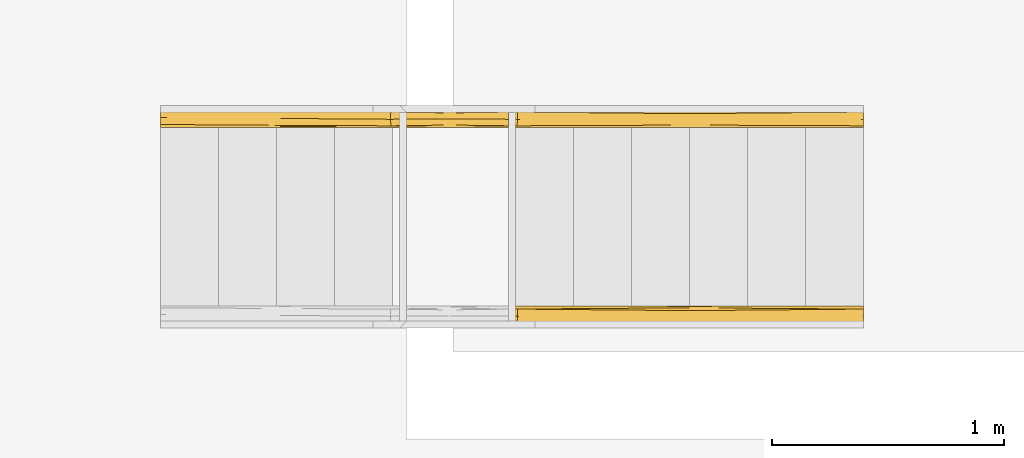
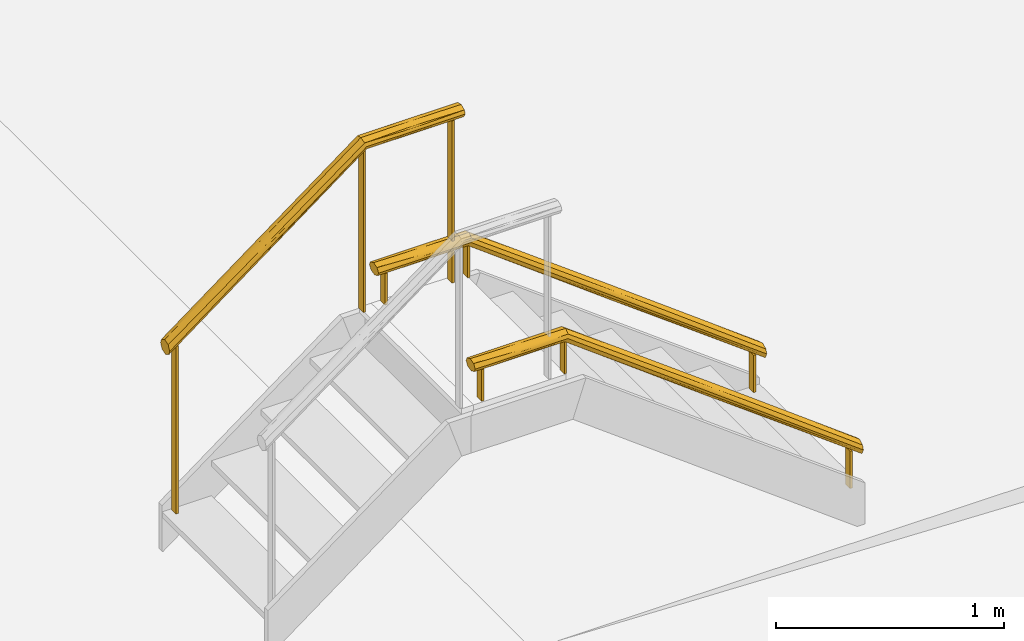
# One storey, part 7 of 15: 3 railings, 2 elements without a shape of their own.
"""IFC2X3 building model written with IfcOpenShell, lengths in centimetres."""

from ifc_helpers import new_model, entity, si_unit, converted_unit, derived_unit, direction, frame, origin, place, context, subcontext, project, spatial, faceted_brep, material, material_list, element, aggregate, save


model = new_model("IFC2X3")

# Units and contexts
model_context = context("Model", 3, precision=0.001, world=origin(), true_north=direction((6.12303176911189e-17, 1.0)))
body_context = subcontext(model_context, "Body", "Model", "MODEL_VIEW")
ifc_project = project(units=[si_unit("LENGTHUNIT", "METRE", prefix="CENTI"), si_unit("AREAUNIT", "SQUARE_METRE"), si_unit("VOLUMEUNIT", "CUBIC_METRE"), converted_unit("PLANEANGLEUNIT", "DEGREE", entity("IfcRatioMeasure", 0.0174532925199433), si_unit("PLANEANGLEUNIT", "RADIAN"), dimensions=[0, 0, 0, 0, 0, 0, 0]), si_unit("MASSUNIT", "GRAM", prefix="KILO"), si_unit("TIMEUNIT", "SECOND"), si_unit("FREQUENCYUNIT", "HERTZ"), si_unit("THERMODYNAMICTEMPERATUREUNIT", "DEGREE_CELSIUS"), derived_unit("THERMALTRANSMITTANCEUNIT", [(si_unit("MASSUNIT", "GRAM", prefix="KILO"), 1), (si_unit("THERMODYNAMICTEMPERATUREUNIT", "KELVIN"), -1), (si_unit("TIMEUNIT", "SECOND"), -3)]), derived_unit("VOLUMETRICFLOWRATEUNIT", [(si_unit("LENGTHUNIT", "METRE"), 3), (si_unit("TIMEUNIT", "SECOND"), -1)]), si_unit("ELECTRICCURRENTUNIT", "AMPERE"), si_unit("ELECTRICVOLTAGEUNIT", "VOLT"), si_unit("POWERUNIT", "WATT"), si_unit("FORCEUNIT", "NEWTON", prefix="KILO"), si_unit("ILLUMINANCEUNIT", "LUX"), si_unit("LUMINOUSFLUXUNIT", "LUMEN"), si_unit("LUMINOUSINTENSITYUNIT", "CANDELA"), derived_unit("USERDEFINED", [(si_unit("MASSUNIT", "GRAM", prefix="KILO"), -1), (si_unit("LENGTHUNIT", "METRE"), -2), (si_unit("TIMEUNIT", "SECOND"), 3), (si_unit("LUMINOUSFLUXUNIT", "LUMEN"), 1)]), derived_unit("LINEARVELOCITYUNIT", [(si_unit("LENGTHUNIT", "METRE"), 1), (si_unit("TIMEUNIT", "SECOND"), -1)]), si_unit("PRESSUREUNIT", "PASCAL"), derived_unit("USERDEFINED", [(si_unit("LENGTHUNIT", "METRE"), -2), (si_unit("MASSUNIT", "GRAM", prefix="KILO"), 1), (si_unit("TIMEUNIT", "SECOND"), -2)])], contexts=[model_context])

# Site, building, storey
site_placement = place(None, frame((8.62739174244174, -249.285249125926, 0.0)))
site = spatial("IfcSite", under=ifc_project, at=site_placement, Name="Default", CompositionType="ELEMENT")
building_placement = place(site_placement, origin())
building = spatial("IfcBuilding", under=site, at=building_placement, CompositionType="ELEMENT")
storey_placement = place(building_placement, frame((0.0, 0.0, 801.0)))
storey = spatial("IfcBuildingStorey", under=building, at=storey_placement, Name="Acrotère E3", CompositionType="ELEMENT", Elevation=801.0)

# Stair, railing
stair_1_placement = place(building_placement, frame((0.0, 0.0, 801.0)))
stair_1 = element("IfcStair", 1, at=stair_1_placement, inside=storey, Name="Escalier assemblé:Escalier", ShapeType="NOTDEFINED")
ifc_material_1 = material(Name="Peinture - Grise")
ifc_material_2 = material(Name="Pin (1)")
ifc_material_list_1 = material_list([ifc_material_1, ifc_material_2])
railing_1_placement = place(stair_1_placement, frame((3033.90482782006, 2666.36068084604, -58.2857142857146)))
railing_1 = element("IfcRailing", 2, at=railing_1_placement, material=ifc_material_list_1, Name="Garde-corps:Type Bateau 3", ObjectType="Garde-corps:Type Bateau 3", PredefinedType="NOTDEFINED", context=body_context, shape_type="Brep", body=[
    faceted_brep([(46.3999999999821, 6.15952722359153, 129.270367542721), (46.3999999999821, 2.15952722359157, 129.270367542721), (47.5999999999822, 2.15952722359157, 129.270367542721), (47.5999999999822, 6.15952722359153, 129.270367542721), (46.3999999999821, 6.15952722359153, 112.285714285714), (47.5999999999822, 6.15952722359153, 112.285714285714), (47.5999999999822, 2.15952722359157, 112.285714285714), (46.3999999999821, 2.15952722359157, 112.285714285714)], [[[0, 1, 2, 3]], [[4, 5, 6, 7]], [[3, 5, 4, 0]], [[2, 6, 5, 3]], [[1, 7, 6, 2]], [[0, 4, 7, 1]]]),
    faceted_brep([(4.4000000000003, 6.15952722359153, 129.270367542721), (4.4000000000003, 2.15952722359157, 129.270367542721), (5.60000000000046, 2.15952722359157, 129.270367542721), (5.60000000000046, 6.15952722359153, 129.270367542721), (4.4000000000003, 6.15952722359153, 112.285714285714), (5.60000000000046, 6.15952722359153, 112.285714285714), (5.60000000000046, 2.15952722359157, 112.285714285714), (4.4000000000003, 2.15952722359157, 112.285714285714)], [[[0, 1, 2, 3]], [[4, 5, 6, 7]], [[3, 5, 4, 0]], [[2, 6, 5, 3]], [[1, 7, 6, 2]], [[0, 4, 7, 1]]]),
    faceted_brep([(191.399999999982, 6.15952722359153, 19.9762567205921), (191.399999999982, 2.15952722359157, 19.9762567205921), (192.599999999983, 2.15952722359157, 19.9762567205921), (192.599999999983, 6.15952722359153, 19.9762567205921), (191.399999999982, 6.15952722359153, 0.0), (192.599999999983, 6.15952722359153, 0.0), (192.599999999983, 2.15952722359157, 0.0), (191.399999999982, 2.15952722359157, 0.0)], [[[0, 1, 2, 3]], [[4, 5, 6, 7]], [[3, 5, 4, 0]], [[2, 6, 5, 3]], [[1, 7, 6, 2]], [[0, 4, 7, 1]]]),
    faceted_brep([(197.0, 6.83604964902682, 22.7848833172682), (197.0, 5.28873150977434, 23.2558923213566), (197.0, 3.741413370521, 23.7269013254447), (197.0, 2.33243630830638, 22.9647927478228), (197.0, 0.923459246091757, 22.202684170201), (197.0, 0.483453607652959, 20.9339934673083), (197.0, 0.15952722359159, 20.0), (197.0, 0.821266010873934, 18.6075583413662), (197.0, 1.48300479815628, 17.2151166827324), (197.0, 3.03032293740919, 16.7441076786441), (197.0, 4.5776410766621, 16.273098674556), (197.0, 5.98661813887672, 17.0352072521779), (197.0, 7.39559520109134, 17.7973158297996), (197.0, 7.77756121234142, 18.8986579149), (197.0, 8.1595272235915, 20.0), (197.0, 7.49778843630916, 21.3924416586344), (121.83048181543, 1.05662421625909, 73.9048622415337), (46.2579881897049, 1.48300479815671, 130.056279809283), (121.478732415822, 1.90910586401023, 73.4349667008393), (46.1324912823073, 3.03032293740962, 129.679214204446), (121.522241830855, 7.05359434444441, 73.9136167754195), (118.015427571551, 0.498080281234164, 77.6167572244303), (121.503408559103, 3.7432909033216, 72.7875055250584), (117.696743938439, 2.78469730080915, 75.8450271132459), (121.58121613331, 5.39269246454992, 72.8914464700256), (131.090715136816, 8.04797661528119, 68.4589765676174), (121.944747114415, 7.72089002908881, 74.478032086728), (46.5311502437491, 0.995783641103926, 130.877017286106), (46.0069943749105, 4.57764107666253, 129.30214859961), (46.2100526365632, 5.98661813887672, 129.912253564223), (122.0, 0.15952722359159, 76.1428571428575), (46.7655751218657, 0.577655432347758, 131.58136578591), (119.308325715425, 0.15952722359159, 78.1577676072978), (47.0, 0.15952722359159, 132.285714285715), (46.6289940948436, 0.821266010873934, 131.170997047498), (46.7527777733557, 7.83772711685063, 131.542915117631), (46.4131108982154, 7.39559520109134, 130.522358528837), (46.7065554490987, 7.77756121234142, 131.404036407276), (124.691707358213, 8.1595272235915, 74.127921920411), (47.0, 8.1595272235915, 132.285714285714), (119.308334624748, 8.1595272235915, 78.1577609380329), (124.937862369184, 6.28827735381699, 70.7709836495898), (122.092602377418, 7.39413437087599, 78.2781042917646), (47.3710059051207, 7.49778843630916, 133.400431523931), (47.7420118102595, 6.83604964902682, 134.515148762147), (122.162970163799, 7.89281647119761, 77.3663382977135), (122.496542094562, 4.57680565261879, 79.4981434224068), (122.428894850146, 6.15879908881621, 79.0675621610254), (47.8675087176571, 5.28873150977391, 134.892214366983), (47.5868891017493, 0.923459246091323, 134.049070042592), (122.053958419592, 0.596693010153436, 77.8059528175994), (122.475138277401, 1.25990992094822, 78.3685978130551), (47.2934445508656, 0.541493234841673, 133.167392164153), (47.9930056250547, 3.741413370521, 135.269279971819), (128.325684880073, 0.270011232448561, 72.2823086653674), (122.418549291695, 2.92475141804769, 79.3939540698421), (47.789947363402, 2.33243630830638, 134.659175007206), (47.2445595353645, 0.47786140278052, 133.020513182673), (125.447222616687, 2.02692343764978, 76.7327661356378), (0.0, 7.73709447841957, 131.574114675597), (0.0, 7.49778843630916, 131.170997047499), (0.0, 6.83604964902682, 130.056279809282), (0.0, 5.28873150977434, 129.679214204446), (0.0, 3.741413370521, 129.30214859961), (0.0, 2.33243630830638, 129.912253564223), (0.0, 0.923459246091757, 130.522358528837), (0.0, 0.541493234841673, 131.404036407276), (0.0, 0.15952722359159, 132.285714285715), (0.0, 0.821266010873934, 133.400431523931), (0.0, 1.48300479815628, 134.515148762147), (0.0, 3.03032293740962, 134.892214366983), (0.0, 3.80398200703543, 135.080747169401), (0.0, 4.5776410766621, 135.269279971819), (0.0, 5.98661813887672, 134.659175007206), (0.0, 7.39559520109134, 134.049070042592), (0.0, 7.77756121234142, 133.167392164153), (0.0, 8.1595272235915, 132.285714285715), (21.7892977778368, 0.55554398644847, 130.98423091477), (23.3741204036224, 4.12010308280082, 129.285860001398), (25.0419380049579, 5.20194773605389, 129.389377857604), (25.2480481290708, 7.72791933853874, 130.930188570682), (23.6343262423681, 7.10119467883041, 130.252869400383), (19.7070075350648, 6.20767400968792, 129.708823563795), (25.1977397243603, 1.99089568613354, 129.76488437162), (19.7512162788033, 2.9857091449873, 129.417795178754), (26.5250056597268, 8.05168566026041, 131.593800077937), (24.3026648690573, 0.15952722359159, 132.285714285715), (22.6973369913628, 8.1595272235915, 132.285714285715), (24.3026648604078, 8.1595272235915, 132.285714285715), (23.5035582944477, 1.16029117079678, 130.300751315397), (22.6973369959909, 0.15952722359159, 132.285714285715), (22.0720233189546, 7.75915198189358, 133.593964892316), (23.9965027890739, 4.15952721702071, 135.285714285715), (20.9147429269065, 5.30154799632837, 135.160845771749), (26.1142490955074, 6.31455728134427, 134.813096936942), (24.3327223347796, 0.423258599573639, 133.357006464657), (19.8229297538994, 0.923459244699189, 134.049070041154), (25.3842577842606, 1.68259670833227, 134.641337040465), (25.0665912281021, 2.64674420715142, 135.062891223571), (24.1829699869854, 7.15409880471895, 134.274634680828)], [[[0, 1, 2, 3, 4, 5, 6, 7, 8, 9, 10, 11, 12, 13, 14, 15]], [[16, 17, 18]], [[18, 17, 19]], [[18, 8, 16]], [[12, 11, 20]], [[21, 16, 7]], [[22, 9, 23]], [[22, 23, 19]], [[11, 10, 24]], [[25, 13, 26]], [[16, 8, 7]], [[27, 17, 16]], [[24, 28, 29]], [[12, 26, 13]], [[10, 9, 22]], [[27, 16, 21]], [[12, 20, 26]], [[8, 18, 9]], [[7, 30, 21]], [[30, 7, 6]], [[31, 30, 32, 33]], [[21, 31, 34, 27]], [[25, 26, 35]], [[26, 36, 37, 35]], [[38, 14, 25]], [[35, 39, 40, 38]], [[36, 26, 20]], [[20, 29, 36]], [[41, 24, 29]], [[10, 22, 24]], [[28, 22, 19]], [[41, 11, 24]], [[28, 24, 22]], [[21, 30, 31]], [[13, 25, 14]], [[38, 25, 35]], [[23, 18, 19]], [[18, 23, 9]], [[41, 20, 11]], [[20, 41, 29]], [[42, 0, 15]], [[43, 44, 42]], [[42, 15, 45]], [[2, 1, 46]], [[47, 1, 0]], [[48, 47, 44]], [[45, 14, 38, 40, 39]], [[49, 50, 51]], [[49, 52, 50]], [[48, 53, 46]], [[50, 4, 51]], [[50, 52, 54]], [[50, 54, 5]], [[55, 53, 56]], [[54, 52, 57, 33]], [[55, 58, 3]], [[54, 33, 32, 30, 6]], [[56, 58, 55]], [[4, 50, 5]], [[49, 51, 56]], [[51, 4, 3]], [[42, 45, 43]], [[0, 42, 47]], [[15, 14, 45]], [[47, 48, 46]], [[2, 46, 55]], [[42, 44, 47]], [[1, 47, 46]], [[53, 55, 46]], [[2, 55, 3]], [[5, 54, 6]], [[43, 45, 39]], [[58, 51, 3]], [[51, 58, 56]], [[59, 60, 61, 62, 63, 64, 65, 66, 67, 68, 69, 70, 71, 72, 73, 74, 75, 76]], [[65, 77, 66]], [[78, 79, 28]], [[60, 80, 81]], [[82, 29, 79]], [[36, 81, 80]], [[78, 62, 79]], [[83, 84, 19]], [[61, 60, 81]], [[60, 85, 80]], [[19, 84, 78]], [[77, 34, 86]], [[37, 36, 80]], [[85, 60, 59]], [[82, 81, 29]], [[85, 87, 88, 39]], [[83, 89, 64]], [[59, 76, 87]], [[89, 83, 17]], [[61, 81, 82]], [[81, 36, 29]], [[82, 62, 61]], [[62, 82, 79]], [[63, 62, 78]], [[28, 79, 29]], [[63, 78, 84]], [[78, 28, 19]], [[84, 64, 63]], [[64, 84, 83]], [[65, 64, 89]], [[17, 83, 19]], [[86, 34, 31, 33]], [[89, 17, 27, 34]], [[34, 77, 89]], [[66, 86, 90, 67]], [[37, 80, 85]], [[85, 39, 35, 37]], [[87, 85, 59]], [[89, 77, 65]], [[66, 77, 86]], [[74, 91, 75]], [[71, 92, 72]], [[93, 48, 94]], [[93, 92, 48]], [[95, 96, 68]], [[68, 67, 95]], [[69, 97, 98]], [[95, 57, 52, 49]], [[97, 56, 98]], [[93, 72, 92]], [[57, 90, 86, 33]], [[69, 68, 96]], [[99, 94, 44]], [[90, 95, 67]], [[99, 73, 94]], [[69, 96, 97]], [[49, 97, 96]], [[91, 43, 88]], [[70, 69, 98, 71]], [[56, 97, 49]], [[98, 56, 53]], [[53, 48, 92]], [[98, 92, 71]], [[53, 92, 98]], [[93, 73, 72]], [[73, 93, 94]], [[96, 95, 49]], [[57, 95, 90]], [[74, 73, 99]], [[44, 94, 48]], [[39, 88, 43]], [[99, 44, 43]], [[43, 91, 99]], [[75, 88, 87, 76]], [[99, 91, 74]], [[75, 91, 88]]]),
])

stair_2_placement = place(building_placement, frame((0.0, 0.0, 801.0)))
stair_2 = element("IfcStair", 3, at=stair_2_placement, inside=storey, Name="Escalier assemblé:Escalier", ShapeType="NOTDEFINED")
ifc_material_list_2 = material_list([ifc_material_1, ifc_material_2])
railing_2_placement = place(stair_2_placement, frame((2927.90482782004, 2751.28068084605, -20.8571428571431)))
railing_2 = element("IfcRailing", 4, at=railing_2_placement, material=ifc_material_list_2, Name="Garde-corps:Type Bateau", ObjectType="Garde-corps:Type Bateau", PredefinedType="NOTDEFINED", context=body_context, shape_type="Brep", body=[
    faceted_brep([(99.3999999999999, 2.15952722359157, 161.841796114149), (100.6, 2.15952722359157, 161.841796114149), (100.6, 6.15952722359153, 161.841796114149), (99.3999999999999, 6.15952722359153, 161.841796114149), (99.3999999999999, 2.15952722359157, 74.8571428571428), (99.3999999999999, 6.15952722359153, 74.8571428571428), (100.6, 6.15952722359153, 74.8571428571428), (100.6, 2.15952722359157, 74.8571428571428)], [[[0, 1, 2, 3]], [[4, 5, 6, 7]], [[1, 0, 4, 7]], [[2, 1, 7, 6]], [[3, 2, 6, 5]], [[0, 3, 5, 4]]]),
    faceted_brep([(4.39999999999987, 2.15952722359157, 89.9762567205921), (5.60000000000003, 2.15952722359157, 89.9762567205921), (5.60000000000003, 6.15952722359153, 89.9762567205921), (4.39999999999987, 6.15952722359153, 89.9762567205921), (4.39999999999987, 2.15952722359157, 0.0), (4.39999999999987, 6.15952722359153, 0.0), (5.60000000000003, 6.15952722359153, 0.0), (5.60000000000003, 2.15952722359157, 0.0)], [[[0, 1, 2, 3]], [[4, 5, 6, 7]], [[1, 0, 4, 7]], [[2, 1, 7, 6]], [[3, 2, 6, 5]], [[0, 3, 5, 4]]]),
    faceted_brep([(144.399999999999, 2.15952722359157, 161.841796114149), (145.599999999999, 2.15952722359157, 161.841796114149), (145.599999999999, 6.15952722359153, 161.841796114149), (144.399999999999, 6.15952722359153, 161.841796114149), (144.399999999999, 2.15952722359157, 74.8571428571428), (144.399999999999, 6.15952722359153, 74.8571428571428), (145.599999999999, 6.15952722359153, 74.8571428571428), (145.599999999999, 2.15952722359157, 74.8571428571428)], [[[0, 1, 2, 3]], [[4, 5, 6, 7]], [[1, 0, 4, 7]], [[2, 1, 7, 6]], [[3, 2, 6, 5]], [[0, 3, 5, 4]]]),
    faceted_brep([(150.0, 0.821266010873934, 163.742425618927), (150.0, 1.48300479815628, 162.627708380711), (150.0, 3.03032293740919, 162.250642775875), (150.0, 4.5776410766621, 161.873577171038), (150.0, 5.98661813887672, 162.483682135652), (150.0, 7.39559520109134, 163.093787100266), (150.0, 7.77756121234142, 163.975464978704), (150.0, 8.1595272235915, 164.857142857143), (150.0, 7.75798178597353, 165.533557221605), (150.0, 7.35643634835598, 166.209971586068), (150.0, 6.83604964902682, 167.086577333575), (150.0, 5.28873150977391, 167.463642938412), (150.0, 3.741413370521, 167.840708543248), (150.0, 2.33243630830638, 167.230603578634), (150.0, 0.923459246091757, 166.620498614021), (150.0, 0.468565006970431, 165.570483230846), (150.0, 0.15952722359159, 164.857142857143), (125.2934451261, 7.72355329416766, 163.495171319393), (100.586889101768, 7.39559520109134, 163.093787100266), (100.293444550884, 7.77756121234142, 163.975464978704), (125.496502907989, 5.39559518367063, 162.003973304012), (122.010252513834, 8.04885421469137, 164.156329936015), (100.993005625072, 4.5776410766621, 161.873577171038), (100.891476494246, 5.28212960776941, 162.178629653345), (100.78994736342, 5.98661813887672, 162.483682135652), (125.293444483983, 7.06540855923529, 162.795549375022), (100.742011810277, 1.48300479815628, 162.627708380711), (125.371005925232, 1.85580956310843, 162.404644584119), (125.371005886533, 1.03863527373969, 162.980638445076), (125.08902792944, 2.75334665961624, 162.048630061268), (125.496502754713, 3.74141336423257, 161.873577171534), (100.867508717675, 3.03032293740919, 162.250642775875), (100.459227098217, 0.978620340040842, 163.477357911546), (124.0864772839, 0.487642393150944, 163.667201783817), (125.0, 0.15952722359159, 164.857142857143), (100.229613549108, 0.569073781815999, 164.167250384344), (124.933715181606, 0.15952722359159, 164.857142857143), (100.0, 0.15952722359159, 164.857142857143), (100.371005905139, 0.821266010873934, 163.742425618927), (100.0, 8.1595272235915, 164.857142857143), (125.0, 8.1595272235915, 164.857142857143), (125.066284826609, 8.1595272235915, 164.857142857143), (126.176655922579, 6.29679496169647, 162.321290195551), (124.706555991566, 0.599897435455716, 166.225566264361), (124.706555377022, 1.27025490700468, 166.93182580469), (99.6289940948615, 7.49778843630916, 165.971860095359), (124.628994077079, 7.2872075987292, 166.727278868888), (125.776199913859, 7.83127439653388, 166.047322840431), (99.4131108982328, 0.923459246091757, 166.620498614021), (99.7065554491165, 0.541493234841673, 165.738820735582), (124.628994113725, 6.46560015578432, 167.308395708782), (124.566245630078, 5.54450591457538, 167.67157559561), (126.635920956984, 0.2712620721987, 165.561262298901), (124.503497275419, 2.92827572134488, 167.711483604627), (99.2100526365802, 2.33243630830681, 167.230603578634), (125.861376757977, 2.03489134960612, 167.39895940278), (99.2579881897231, 6.83604964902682, 167.086577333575), (99.1324912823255, 5.28873150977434, 167.463642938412), (124.503497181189, 3.966558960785, 167.853649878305), (99.0069943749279, 3.74141337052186, 167.840708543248), (99.8558766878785, 7.90246396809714, 165.290173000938), (0.0, 1.48300479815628, 92.7848833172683), (0.0, 3.03032293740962, 93.2558923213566), (0.0, 4.5776410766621, 93.7269013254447), (0.0, 5.98661813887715, 92.9647927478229), (0.0, 7.39559520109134, 92.202684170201), (0.0, 7.77756121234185, 91.1013420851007), (0.0, 8.1595272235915, 90.0), (0.0, 7.49778843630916, 88.6075583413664), (0.0, 6.83604964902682, 87.2151166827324), (0.0, 5.28873150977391, 86.7441076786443), (0.0, 3.741413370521, 86.273098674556), (0.0, 2.33243630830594, 87.0352072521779), (0.0, 0.923459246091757, 87.7973158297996), (0.0, 0.551317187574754, 88.8703320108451), (0.0, 0.15952722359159, 90.0), (0.0, 0.821266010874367, 91.3924416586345), (56.6877854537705, 6.7563769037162, 129.584534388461), (45.3443179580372, 7.49142179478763, 121.869960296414), (48.7222917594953, 1.24334588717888, 123.907129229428), (46.4192413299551, 0.606559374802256, 123.026638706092), (45.1453756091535, 0.264146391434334, 122.94307541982), (50.5041745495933, 5.78832041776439, 124.383305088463), (47.2401512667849, 3.16970159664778, 121.731746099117), (48.1982352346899, 4.27436432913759, 122.333936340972), (59.2812223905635, 2.158634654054, 131.131342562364), (63.4349766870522, 0.15952722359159, 137.485611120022), (36.5650202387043, 0.159527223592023, 117.37152943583), (48.3470474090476, 7.95309294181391, 125.002900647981), (36.5650202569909, 8.1595272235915, 117.371529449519), (63.4349766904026, 8.1595272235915, 137.48561112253), (52.8907852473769, 0.55255604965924, 131.21244348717), (48.6441392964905, 1.15140927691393, 128.883654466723), (45.2983940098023, 1.98023034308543, 127.051492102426), (56.854131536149, 2.97123288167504, 136.137629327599), (48.5331841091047, 4.11172055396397, 130.077717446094), (55.3769484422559, 8.04912244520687, 132.327970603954), (45.2342525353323, 5.19760091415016, 127.480105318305), (48.6594975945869, 7.10018729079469, 128.965448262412), (45.5039919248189, 7.72720560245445, 125.757553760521), (56.8069166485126, 6.20506295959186, 135.74439766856)], [[[0, 1, 2, 3, 4, 5, 6, 7, 8, 9, 10, 11, 12, 13, 14, 15, 16]], [[17, 18, 19]], [[4, 3, 20]], [[17, 19, 21]], [[20, 22, 23, 24]], [[5, 25, 17]], [[26, 27, 28]], [[2, 29, 30]], [[27, 26, 31]], [[28, 32, 26]], [[5, 4, 25]], [[30, 20, 3]], [[27, 1, 28]], [[32, 28, 33]], [[0, 16, 33]], [[28, 1, 0]], [[2, 30, 3]], [[1, 27, 2]], [[33, 28, 0]], [[33, 16, 34]], [[35, 34, 36, 37]], [[33, 35, 38, 32]], [[6, 5, 17]], [[21, 39, 40, 41, 7]], [[7, 6, 21]], [[18, 17, 25]], [[19, 39, 21]], [[25, 24, 18]], [[42, 20, 24]], [[42, 4, 20]], [[22, 20, 30]], [[30, 31, 22]], [[31, 30, 29]], [[33, 34, 35]], [[17, 21, 6]], [[42, 25, 4]], [[25, 42, 24]], [[29, 27, 31]], [[27, 29, 2]], [[43, 14, 44]], [[45, 46, 47]], [[48, 49, 43]], [[11, 50, 51]], [[43, 49, 52]], [[47, 46, 9]], [[53, 54, 55]], [[50, 11, 10]], [[43, 52, 15]], [[56, 57, 50]], [[12, 11, 58]], [[10, 46, 50]], [[54, 53, 59]], [[53, 55, 13]], [[12, 58, 53]], [[56, 50, 46]], [[46, 45, 56]], [[9, 46, 10]], [[15, 52, 16]], [[40, 39, 47]], [[47, 8, 40]], [[47, 9, 8]], [[37, 52, 49]], [[52, 37, 36, 34, 16]], [[48, 43, 44]], [[14, 43, 15]], [[48, 44, 54]], [[44, 14, 13]], [[59, 53, 58]], [[12, 53, 13]], [[58, 57, 59]], [[51, 57, 58]], [[11, 51, 58]], [[51, 50, 57]], [[47, 39, 60, 45]], [[8, 7, 41, 40]], [[55, 44, 13]], [[44, 55, 54]], [[61, 62, 63, 64, 65, 66, 67, 68, 69, 70, 71, 72, 73, 74, 75, 76]], [[77, 78, 18]], [[79, 73, 72]], [[74, 80, 81]], [[74, 81, 75]], [[82, 24, 23]], [[81, 38, 35, 37]], [[31, 83, 84]], [[31, 85, 83]], [[38, 80, 79]], [[79, 80, 73]], [[81, 37, 86, 87, 75]], [[79, 26, 32, 38]], [[83, 85, 72]], [[73, 80, 74]], [[31, 26, 85]], [[79, 85, 26]], [[22, 31, 84]], [[81, 80, 38]], [[85, 79, 72]], [[24, 82, 77]], [[71, 83, 72]], [[23, 22, 84]], [[84, 83, 71]], [[77, 82, 69]], [[84, 71, 70]], [[84, 70, 82]], [[84, 82, 23]], [[82, 70, 69]], [[77, 18, 24]], [[88, 19, 78]], [[19, 88, 39]], [[69, 78, 77]], [[19, 18, 78]], [[68, 78, 69]], [[67, 88, 68]], [[78, 68, 88]], [[88, 67, 89, 90, 39]], [[48, 91, 49]], [[92, 93, 61]], [[93, 94, 62]], [[62, 94, 95]], [[60, 90, 96]], [[63, 95, 97]], [[98, 56, 45]], [[98, 99, 65]], [[45, 96, 99]], [[76, 75, 87]], [[98, 45, 99]], [[66, 65, 99]], [[96, 90, 89, 67]], [[100, 98, 64]], [[100, 64, 97]], [[92, 54, 93]], [[56, 98, 100]], [[60, 39, 90]], [[97, 95, 57]], [[98, 65, 64]], [[100, 57, 56]], [[57, 100, 97]], [[59, 57, 95]], [[63, 97, 64]], [[59, 95, 94]], [[95, 63, 62]], [[94, 54, 59]], [[54, 94, 93]], [[48, 54, 92]], [[61, 93, 62]], [[49, 87, 86, 37]], [[92, 61, 76]], [[76, 91, 92]], [[96, 67, 66]], [[91, 76, 87]], [[60, 96, 45]], [[99, 96, 66]], [[92, 91, 48]], [[49, 91, 87]]]),
])
aggregate(stair_2, [railing_2])

# Railing
ifc_material_list_3 = material_list([ifc_material_1, ifc_material_2])
railing_3_placement = place(stair_1_placement, frame((3033.90482782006, 2751.28068084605, -58.2857142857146)))
railing_3 = element("IfcRailing", 5, at=railing_3_placement, material=ifc_material_list_3, Name="Garde-corps:Type Bateau 3", ObjectType="Garde-corps:Type Bateau 3", PredefinedType="NOTDEFINED", context=body_context, shape_type="Brep", body=[
    faceted_brep([(46.3999999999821, 2.15952722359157, 129.270367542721), (47.5999999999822, 2.15952722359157, 129.270367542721), (47.5999999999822, 6.15952722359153, 129.270367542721), (46.3999999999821, 6.15952722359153, 129.270367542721), (46.3999999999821, 2.15952722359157, 112.285714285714), (46.3999999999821, 6.15952722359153, 112.285714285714), (47.5999999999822, 6.15952722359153, 112.285714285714), (47.5999999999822, 2.15952722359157, 112.285714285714)], [[[0, 1, 2, 3]], [[4, 5, 6, 7]], [[1, 0, 4, 7]], [[2, 1, 7, 6]], [[3, 2, 6, 5]], [[0, 3, 5, 4]]]),
    faceted_brep([(4.4000000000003, 2.15952722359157, 129.270367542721), (5.60000000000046, 2.15952722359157, 129.270367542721), (5.60000000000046, 6.15952722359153, 129.270367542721), (4.4000000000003, 6.15952722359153, 129.270367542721), (4.4000000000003, 2.15952722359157, 112.285714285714), (4.4000000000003, 6.15952722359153, 112.285714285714), (5.60000000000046, 6.15952722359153, 112.285714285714), (5.60000000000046, 2.15952722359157, 112.285714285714)], [[[0, 1, 2, 3]], [[4, 5, 6, 7]], [[1, 0, 4, 7]], [[2, 1, 7, 6]], [[3, 2, 6, 5]], [[0, 3, 5, 4]]]),
    faceted_brep([(191.399999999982, 2.15952722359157, 19.9762567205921), (192.599999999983, 2.15952722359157, 19.9762567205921), (192.599999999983, 6.15952722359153, 19.9762567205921), (191.399999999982, 6.15952722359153, 19.9762567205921), (191.399999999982, 2.15952722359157, 0.0), (191.399999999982, 6.15952722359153, 0.0), (192.599999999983, 6.15952722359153, 0.0), (192.599999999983, 2.15952722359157, 0.0)], [[[0, 1, 2, 3]], [[4, 5, 6, 7]], [[1, 0, 4, 7]], [[2, 1, 7, 6]], [[3, 2, 6, 5]], [[0, 3, 5, 4]]]),
    faceted_brep([(197.0, 6.83604964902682, 22.7848833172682), (197.0, 5.28873150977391, 23.2558923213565), (197.0, 3.741413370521, 23.7269013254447), (197.0, 2.33243630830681, 22.9647927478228), (197.0, 0.923459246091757, 22.202684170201), (197.0, 0.483453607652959, 20.9339934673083), (197.0, 0.15952722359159, 20.0), (197.0, 0.821266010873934, 18.6075583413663), (197.0, 1.48300479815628, 17.2151166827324), (197.0, 3.03032293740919, 16.7441076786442), (197.0, 4.5776410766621, 16.273098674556), (197.0, 5.98661813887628, 17.0352072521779), (197.0, 7.39559520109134, 17.7973158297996), (197.0, 7.77756121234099, 18.8986579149), (197.0, 8.1595272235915, 20.0), (197.0, 7.49778843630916, 21.3924416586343), (121.830481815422, 1.05662421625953, 73.9048622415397), (46.2579881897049, 1.48300479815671, 130.056279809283), (121.478732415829, 1.90910586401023, 73.434966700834), (46.1324912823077, 3.03032293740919, 129.679214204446), (121.522241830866, 7.05359434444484, 73.9136167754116), (118.015427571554, 0.498080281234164, 77.6167572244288), (121.503408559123, 3.7432909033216, 72.7875055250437), (117.696743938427, 2.78469730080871, 75.845027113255), (121.58121613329, 5.39269246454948, 72.8914464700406), (131.090715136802, 8.04797661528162, 68.4589765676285), (121.944747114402, 7.72089002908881, 74.4780320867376), (46.5311502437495, 0.995783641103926, 130.877017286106), (46.0069943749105, 4.57764107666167, 129.30214859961), (46.2100526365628, 5.98661813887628, 129.912253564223), (122.0, 0.15952722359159, 76.1428571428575), (46.7655751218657, 0.577655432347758, 131.58136578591), (119.308094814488, 0.15952722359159, 78.1579404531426), (47.0, 0.15952722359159, 132.285714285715), (46.6289940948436, 0.821266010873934, 131.170997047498), (46.7527777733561, 7.83772711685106, 131.542915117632), (46.413110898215, 7.39559520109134, 130.522358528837), (46.7065554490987, 7.77756121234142, 131.404036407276), (124.69141339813, 8.15952722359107, 74.12814197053), (47.0, 8.1595272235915, 132.285714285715), (119.308334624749, 8.1595272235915, 78.1577609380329), (124.937862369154, 6.28827735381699, 70.7709836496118), (122.092602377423, 7.39413437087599, 78.2781042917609), (47.3710059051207, 7.49778843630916, 133.400431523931), (47.7420118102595, 6.83604964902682, 134.515148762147), (122.1629701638, 7.89281647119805, 77.3663382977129), (122.496542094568, 4.57680565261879, 79.4981434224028), (122.428894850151, 6.15879908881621, 79.0675621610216), (47.8675087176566, 5.28873150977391, 134.892214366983), (47.5868891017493, 0.923459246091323, 134.049070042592), (122.053958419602, 0.596693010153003, 77.8059528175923), (122.475138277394, 1.25990992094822, 78.3685978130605), (47.2934445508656, 0.54149323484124, 133.167392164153), (47.9930056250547, 3.741413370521, 135.269279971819), (128.32568488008, 0.270011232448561, 72.2823086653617), (122.41854929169, 2.92475141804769, 79.393954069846), (47.7899473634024, 2.33243630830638, 134.659175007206), (47.2445595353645, 0.47786140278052, 133.020513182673), (125.447222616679, 2.02692343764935, 76.7327661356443), (0.0, 7.73709447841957, 131.574114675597), (0.0, 7.49778843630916, 131.170997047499), (0.0, 6.83604964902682, 130.056279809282), (0.0, 5.28873150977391, 129.679214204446), (0.0, 3.741413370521, 129.30214859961), (0.0, 2.33243630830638, 129.912253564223), (0.0, 0.923459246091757, 130.522358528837), (0.0, 0.541493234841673, 131.404036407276), (0.0, 0.15952722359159, 132.285714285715), (0.0, 0.821266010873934, 133.400431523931), (0.0, 1.48300479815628, 134.515148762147), (0.0, 3.03032293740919, 134.892214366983), (0.0, 3.80398200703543, 135.080747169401), (0.0, 4.5776410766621, 135.269279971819), (0.0, 5.98661813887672, 134.659175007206), (0.0, 7.39559520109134, 134.049070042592), (0.0, 7.77756121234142, 133.167392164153), (0.0, 8.1595272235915, 132.285714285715), (21.7892977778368, 0.55554398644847, 130.98423091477), (23.3741204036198, 4.12010308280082, 129.285860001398), (25.0419380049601, 5.20194773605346, 129.389377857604), (25.2480481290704, 7.72791933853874, 130.930188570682), (23.6343262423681, 7.10119467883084, 130.252869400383), (19.7070075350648, 6.20767400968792, 129.708823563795), (25.1977397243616, 1.9908956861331, 129.764884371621), (19.7512162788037, 2.9857091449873, 129.417795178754), (26.5250056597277, 8.05168566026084, 131.593800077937), (24.3026648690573, 0.159527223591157, 132.285714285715), (22.6973369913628, 8.15952722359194, 132.285714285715), (24.3026648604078, 8.15952722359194, 132.285714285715), (23.503558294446, 1.16029117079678, 130.300751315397), (22.6973369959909, 0.15952722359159, 132.285714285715), (22.0720233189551, 7.75915198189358, 133.593964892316), (23.9965027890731, 4.15952721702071, 135.285714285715), (20.914742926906, 5.30154799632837, 135.160845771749), (26.1142490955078, 6.31455728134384, 134.813096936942), (24.3327223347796, 0.423258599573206, 133.357006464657), (19.8229297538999, 0.923459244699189, 134.049070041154), (25.384257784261, 1.68259670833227, 134.641337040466), (25.0665912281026, 2.64674420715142, 135.062891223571), (24.1829699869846, 7.15409880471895, 134.274634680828)], [[[0, 1, 2, 3, 4, 5, 6, 7, 8, 9, 10, 11, 12, 13, 14, 15]], [[16, 17, 18]], [[18, 17, 19]], [[18, 8, 16]], [[12, 11, 20]], [[21, 16, 7]], [[22, 9, 23]], [[22, 23, 19]], [[11, 10, 24]], [[25, 13, 26]], [[16, 8, 7]], [[27, 17, 16]], [[24, 28, 29]], [[12, 26, 13]], [[10, 9, 22]], [[27, 16, 21]], [[12, 20, 26]], [[8, 18, 9]], [[7, 30, 21]], [[30, 7, 6]], [[31, 30, 32, 33]], [[21, 31, 34, 27]], [[25, 26, 35]], [[26, 36, 37, 35]], [[38, 14, 25]], [[35, 39, 40, 38]], [[36, 26, 20]], [[20, 29, 36]], [[41, 24, 29]], [[10, 22, 24]], [[28, 22, 19]], [[41, 11, 24]], [[28, 24, 22]], [[21, 30, 31]], [[13, 25, 14]], [[38, 25, 35]], [[23, 18, 19]], [[18, 23, 9]], [[41, 20, 11]], [[20, 41, 29]], [[42, 0, 15]], [[43, 44, 42]], [[42, 15, 45]], [[2, 1, 46]], [[47, 1, 0]], [[48, 47, 44]], [[45, 14, 38, 40, 39]], [[49, 50, 51]], [[49, 52, 50]], [[48, 53, 46]], [[50, 4, 51]], [[50, 52, 54]], [[50, 54, 5]], [[55, 53, 56]], [[54, 52, 57, 33]], [[55, 58, 3]], [[54, 33, 32, 30, 6]], [[56, 58, 55]], [[4, 50, 5]], [[49, 51, 56]], [[51, 4, 3]], [[42, 45, 43]], [[0, 42, 47]], [[15, 14, 45]], [[47, 48, 46]], [[2, 46, 55]], [[42, 44, 47]], [[1, 47, 46]], [[53, 55, 46]], [[2, 55, 3]], [[5, 54, 6]], [[43, 45, 39]], [[58, 51, 3]], [[51, 58, 56]], [[59, 60, 61, 62, 63, 64, 65, 66, 67, 68, 69, 70, 71, 72, 73, 74, 75, 76]], [[65, 77, 66]], [[78, 79, 28]], [[60, 80, 81]], [[82, 29, 79]], [[36, 81, 80]], [[78, 62, 79]], [[83, 84, 19]], [[61, 60, 81]], [[60, 85, 80]], [[19, 84, 78]], [[77, 34, 86]], [[37, 36, 80]], [[85, 60, 59]], [[82, 81, 29]], [[85, 87, 88, 39]], [[83, 89, 64]], [[59, 76, 87]], [[89, 83, 17]], [[61, 81, 82]], [[81, 36, 29]], [[82, 62, 61]], [[62, 82, 79]], [[63, 62, 78]], [[28, 79, 29]], [[63, 78, 84]], [[78, 28, 19]], [[84, 64, 63]], [[64, 84, 83]], [[65, 64, 89]], [[17, 83, 19]], [[86, 34, 31, 33]], [[89, 17, 27, 34]], [[34, 77, 89]], [[66, 86, 90, 67]], [[37, 80, 85]], [[85, 39, 35, 37]], [[87, 85, 59]], [[89, 77, 65]], [[66, 77, 86]], [[74, 91, 75]], [[71, 92, 72]], [[93, 48, 94]], [[93, 92, 48]], [[95, 96, 68]], [[68, 67, 95]], [[69, 97, 98]], [[95, 57, 52, 49]], [[97, 56, 98]], [[93, 72, 92]], [[57, 90, 86, 33]], [[69, 68, 96]], [[99, 94, 44]], [[90, 95, 67]], [[99, 73, 94]], [[69, 96, 97]], [[49, 97, 96]], [[91, 43, 88]], [[70, 69, 98, 71]], [[56, 97, 49]], [[98, 56, 53]], [[53, 48, 92]], [[98, 92, 71]], [[53, 92, 98]], [[93, 73, 72]], [[73, 93, 94]], [[96, 95, 49]], [[57, 95, 90]], [[74, 73, 99]], [[44, 94, 48]], [[39, 88, 43]], [[99, 44, 43]], [[43, 91, 99]], [[75, 88, 87, 76]], [[99, 91, 74]], [[75, 91, 88]]]),
])

aggregate(stair_1, [railing_1, railing_3])

save(model, "model.ifc")
